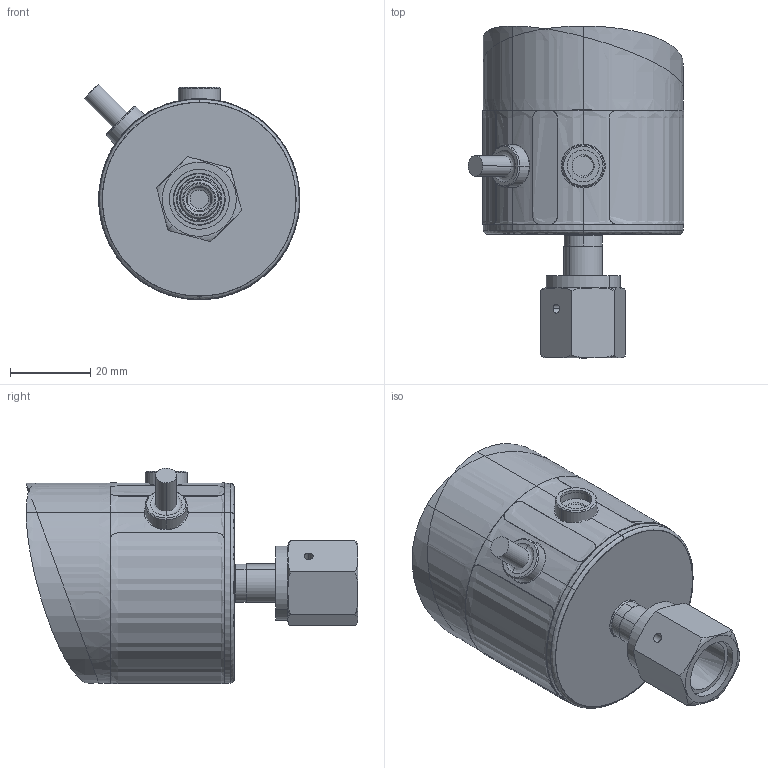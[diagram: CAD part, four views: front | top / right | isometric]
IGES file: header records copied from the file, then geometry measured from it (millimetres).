
Start section: SolidWorks IGES file using analytic representation for surfaces
Global section: file name: C:\Users\egross\Downloads\GPD-XXXXXX-P-XXX-SF_ethan.IGS; native system: SolidWorks 2023; preprocessor: SolidWorks 2023; author: egross; date: 250819.124952; units: inch
Bounding box: 53.95 x 82.94 x 53.95 mm (x, y, z)
Volume: 90130 mm3; surface area: 28555.4 mm2
Topology: 6 solids, 23 shells, 2248 faces, 6086 edges, 4038 vertices
Faces by surface type: plane 1930, revolution 218, bspline 100
